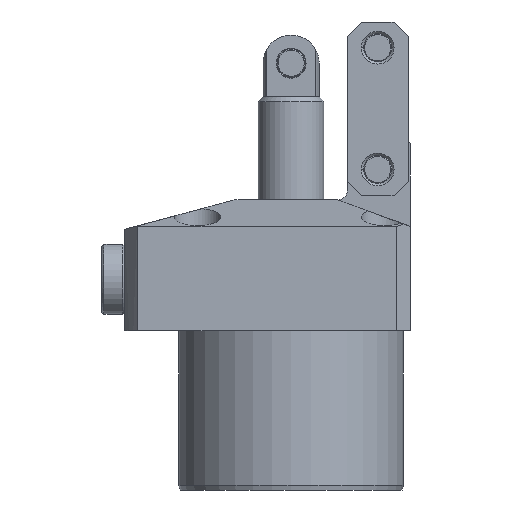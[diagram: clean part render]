
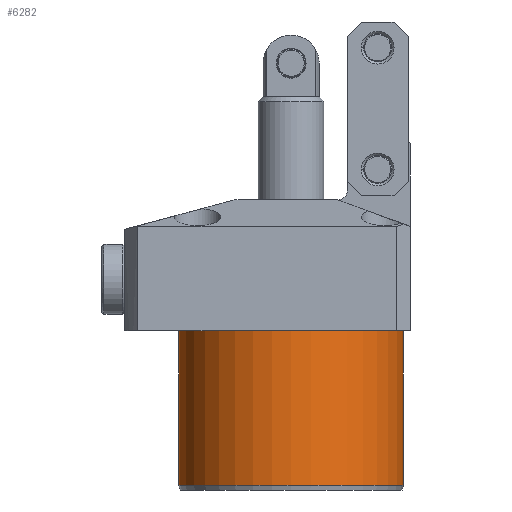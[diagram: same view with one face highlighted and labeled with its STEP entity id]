
A CAD part, front view. The second image highlights one B-rep face of the part: STEP entity #6282.
In plain terms, the highlighted cylindrical face has radius 24 mm (diameter 48 mm), a partial arc.
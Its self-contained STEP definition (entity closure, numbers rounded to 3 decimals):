
#811 = DIRECTION ( 'NONE',  ( 0., 0., 1. ) ) ;
#1363 = VERTEX_POINT ( 'NONE', #2041 ) ;
#1416 = DIRECTION ( 'NONE',  ( 1., 0., 0. ) ) ;
#1947 = CARTESIAN_POINT ( 'NONE',  ( -24., 0., -34. ) ) ;
#2041 = CARTESIAN_POINT ( 'NONE',  ( 24., 0., -33. ) ) ;
#2080 = CARTESIAN_POINT ( 'NONE',  ( 24., 0., -34. ) ) ;
#2467 = EDGE_CURVE ( 'NONE', #11649, #11247, #11736, .T. ) ;
#3253 = VECTOR ( 'NONE', #10571, 1000. ) ;
#4496 = EDGE_CURVE ( 'NONE', #1363, #11649, #17923, .T. ) ;
#5180 = AXIS2_PLACEMENT_3D ( 'NONE', #18435, #9915, #1416 ) ;
#5206 = AXIS2_PLACEMENT_3D ( 'NONE', #16187, #11883, #7657 ) ;
#5459 = FACE_OUTER_BOUND ( 'NONE', #12176, .T. ) ;
#6282 = ADVANCED_FACE ( 'NONE', ( #5459 ), #16356, .T. ) ;
#7580 = LINE ( 'NONE', #1947, #15138 ) ;
#7657 = DIRECTION ( 'NONE',  ( 1., 0., 0. ) ) ;
#7741 = EDGE_CURVE ( 'NONE', #9535, #1363, #11210, .T. ) ;
#9315 = CARTESIAN_POINT ( 'NONE',  ( 0., 0., -33. ) ) ;
#9535 = VERTEX_POINT ( 'NONE', #13773 ) ;
#9915 = DIRECTION ( 'NONE',  ( 0., 0., -1. ) ) ;
#10571 = DIRECTION ( 'NONE',  ( 0., 0., 1. ) ) ;
#10630 = ORIENTED_EDGE ( 'NONE', *, *, #2467, .T. ) ;
#10733 = DIRECTION ( 'NONE',  ( -1., 0., 0. ) ) ;
#11156 = AXIS2_PLACEMENT_3D ( 'NONE', #9315, #811, #10733 ) ;
#11210 = CIRCLE ( 'NONE', #11156, 24. ) ;
#11247 = VERTEX_POINT ( 'NONE', #16346 ) ;
#11649 = VERTEX_POINT ( 'NONE', #17518 ) ;
#11736 = CIRCLE ( 'NONE', #5180, 24. ) ;
#11866 = DIRECTION ( 'NONE',  ( 0., 0., 1. ) ) ;
#11883 = DIRECTION ( 'NONE',  ( 0., 0., 1. ) ) ;
#12176 = EDGE_LOOP ( 'NONE', ( #15235, #12358, #18221, #10630 ) ) ;
#12358 = ORIENTED_EDGE ( 'NONE', *, *, #7741, .T. ) ;
#13773 = CARTESIAN_POINT ( 'NONE',  ( -24., 0., -33. ) ) ;
#15138 = VECTOR ( 'NONE', #11866, 1000. ) ;
#15235 = ORIENTED_EDGE ( 'NONE', *, *, #18040, .F. ) ;
#16187 = CARTESIAN_POINT ( 'NONE',  ( 0., 0., -34. ) ) ;
#16346 = CARTESIAN_POINT ( 'NONE',  ( -24., 0., 0. ) ) ;
#16356 = CYLINDRICAL_SURFACE ( 'NONE', #5206, 24. ) ;
#17518 = CARTESIAN_POINT ( 'NONE',  ( 24., 0., 0. ) ) ;
#17923 = LINE ( 'NONE', #2080, #3253 ) ;
#18040 = EDGE_CURVE ( 'NONE', #9535, #11247, #7580, .T. ) ;
#18221 = ORIENTED_EDGE ( 'NONE', *, *, #4496, .T. ) ;
#18435 = CARTESIAN_POINT ( 'NONE',  ( 0., 0., 0. ) ) ;
